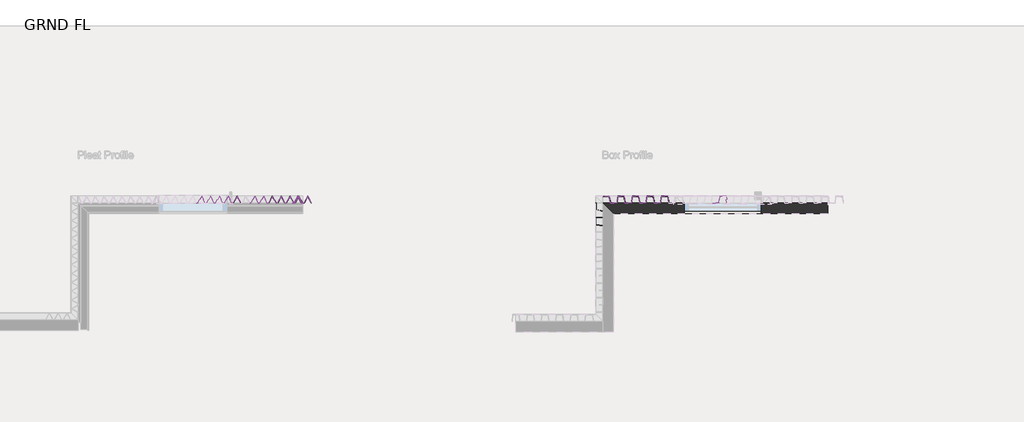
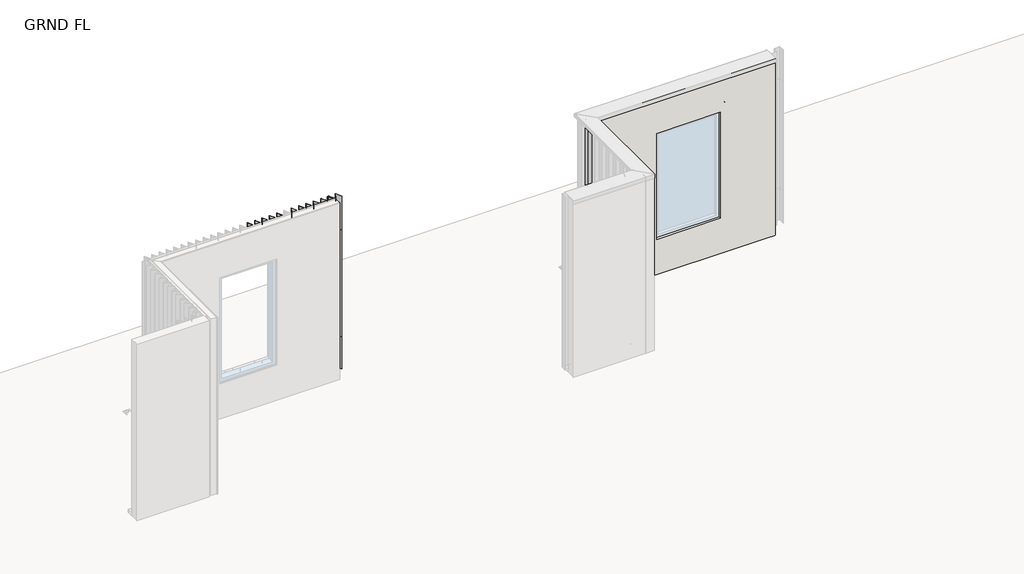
# One storey, part 4 of 13: 47 members, 1 wall.
"""IFC4 building model written with IfcOpenShell, lengths in millimetres."""

from ifc_helpers import new_model, si_unit, frame, origin, place, context, project, spatial, polyline, ellipse_curve, transform, mapped, element, save
from ifc_brep_helpers import plane_surface, cylinder_surface, revolved_surface, advanced_brep
from components import rectangular_mullion_6d4f5b42, rectangular_mullion_9c0c3c6b, rectangular_mullion_2d550053, rectangular_mullion_3ec16531, rectangular_mullion_c30dfc19, rectangular_mullion_fe7e4276, rectangular_mullion_7e84aa45, rectangular_mullion_6c8a53db, rectangular_mullion_6cd9f263, rectangular_mullion_04fd0460, rectangular_mullion_dd187791, rectangular_mullion_65e78ce3, rectangular_mullion_1e0c4966, rectangular_mullion_1727c332

model = new_model("IFC4")

# Units and contexts
model_context = context("Model", 3, world=origin())
ifc_project = project(units=[si_unit("LENGTHUNIT", "METRE", prefix="MILLI")], contexts=[model_context])

# Site, building, storey
site = spatial("IfcSite", under=ifc_project)
building = spatial("IfcBuilding", under=site)
storey = spatial("IfcBuildingStorey", under=building, Name="GRND FL", Elevation=35277.5920148)

# Members
placement = place(None, origin())
rectangular_mullion_shape = rectangular_mullion_6d4f5b42(model_context)
element("IfcMember", 1, ObjectType="Rectangular Mullion : CD_NINELINE_Pleat Start Intermediate", at=placement, inside=storey, context=model_context, shape_type="MappedRepresentation", body=[
    mapped(rectangular_mullion_shape, transform((57017.9220151, -3745.6146039, 35330.5920148), x_axis=(1.0, 0.0, 0.0), y_axis=(0.0, -1.0, 0.0), z_axis=(0.0, 0.0, -1.0))),
])
element("IfcMember", 2, ObjectType="Rectangular Mullion : CD_NINELINE_Pleat Start Intermediate", at=placement, inside=storey, context=model_context, shape_type="MappedRepresentation", body=[
    mapped(rectangular_mullion_shape, transform((57135.9220151, -3745.6146039, 35330.5920148), x_axis=(1.0, 0.0, 0.0), y_axis=(0.0, -1.0, 0.0), z_axis=(0.0, 0.0, -1.0))),
])
element("IfcMember", 3, ObjectType="Rectangular Mullion : CD_NINELINE_Pleat Start Intermediate", at=placement, inside=storey, context=model_context, shape_type="MappedRepresentation", body=[
    mapped(rectangular_mullion_shape, transform((57253.9220151, -3745.6146039, 35330.5920148), x_axis=(1.0, 0.0, 0.0), y_axis=(0.0, -1.0, 0.0), z_axis=(0.0, 0.0, -1.0))),
])
element("IfcMember", 4, ObjectType="Rectangular Mullion : CD_NINELINE_Pleat Start Intermediate", at=placement, inside=storey, context=model_context, shape_type="MappedRepresentation", body=[
    mapped(rectangular_mullion_shape, transform((57371.9220151, -3745.6146039, 35330.5920148), x_axis=(1.0, 0.0, 0.0), y_axis=(0.0, -1.0, 0.0), z_axis=(0.0, 0.0, -1.0))),
])
element("IfcMember", 5, ObjectType="Rectangular Mullion : CD_NINELINE_Pleat Start Intermediate", at=placement, inside=storey, context=model_context, shape_type="MappedRepresentation", body=[
    mapped(rectangular_mullion_shape, transform((57489.9220151, -3745.6146039, 35330.5920148), x_axis=(1.0, 0.0, 0.0), y_axis=(0.0, -1.0, 0.0), z_axis=(0.0, 0.0, -1.0))),
])
rectangular_mullion_2_shape = rectangular_mullion_9c0c3c6b(model_context)
element("IfcMember", 6, ObjectType="Rectangular Mullion : CD_NINELINE_Pleat End", at=placement, inside=storey, context=model_context, shape_type="MappedRepresentation", body=[
    mapped(rectangular_mullion_2_shape, transform((57493.7764071, -3745.6146039, 35330.5920148), x_axis=(1.0, 0.0, 0.0), y_axis=(0.0, -1.0, 0.0), z_axis=(0.0, 0.0, -1.0))),
])
rectangular_mullion_3_shape = rectangular_mullion_2d550053(model_context)
element("IfcMember", 7, ObjectType="Rectangular Mullion : CD_NINELINE_Box Intermediate", at=placement, inside=storey, context=model_context, shape_type="MappedRepresentation", body=[
    mapped(rectangular_mullion_3_shape, transform((61597.961255, -3745.6146039, 35330.5920148), x_axis=(1.0, 0.0, 0.0), y_axis=(0.0, -1.0, 0.0), z_axis=(0.0, 0.0, -1.0))),
])
element("IfcMember", 8, ObjectType="Rectangular Mullion : CD_NINELINE_Box Intermediate", at=placement, inside=storey, context=model_context, shape_type="MappedRepresentation", body=[
    mapped(rectangular_mullion_3_shape, transform((61791.961255, -3745.6146039, 35330.5920148), x_axis=(1.0, 0.0, 0.0), y_axis=(0.0, -1.0, 0.0), z_axis=(0.0, 0.0, -1.0))),
])
element("IfcMember", 9, ObjectType="Rectangular Mullion : CD_NINELINE_Box Intermediate", at=placement, inside=storey, context=model_context, shape_type="MappedRepresentation", body=[
    mapped(rectangular_mullion_3_shape, transform((61985.961255, -3745.6146039, 35330.5920148), x_axis=(1.0, 0.0, 0.0), y_axis=(0.0, -1.0, 0.0), z_axis=(0.0, 0.0, -1.0))),
])
element("IfcMember", 10, ObjectType="Rectangular Mullion : CD_NINELINE_Box Intermediate", at=placement, inside=storey, context=model_context, shape_type="MappedRepresentation", body=[
    mapped(rectangular_mullion_3_shape, transform((62179.961255, -3745.6146039, 35330.5920148), x_axis=(1.0, 0.0, 0.0), y_axis=(0.0, -1.0, 0.0), z_axis=(0.0, 0.0, -1.0))),
])
element("IfcMember", 11, ObjectType="Rectangular Mullion : CD_NINELINE_Box Intermediate", at=placement, inside=storey, context=model_context, shape_type="MappedRepresentation", body=[
    mapped(rectangular_mullion_3_shape, transform((62373.961255, -3745.6146039, 35330.5920148), x_axis=(1.0, 0.0, 0.0), y_axis=(0.0, -1.0, 0.0), z_axis=(0.0, 0.0, -1.0))),
])
element("IfcMember", 12, ObjectType="Rectangular Mullion : CD_NINELINE_Box Intermediate", at=placement, inside=storey, context=model_context, shape_type="MappedRepresentation", body=[
    mapped(rectangular_mullion_3_shape, transform((62567.961255, -3745.6146039, 35330.5920148), x_axis=(1.0, 0.0, 0.0), y_axis=(0.0, -1.0, 0.0), z_axis=(0.0, 0.0, -1.0))),
])
element("IfcMember", 13, ObjectType="Rectangular Mullion : CD_NINELINE_Box Intermediate", at=placement, inside=storey, context=model_context, shape_type="MappedRepresentation", body=[
    mapped(rectangular_mullion_3_shape, transform((62761.961255, -3745.6146039, 35330.5920148), x_axis=(1.0, 0.0, 0.0), y_axis=(0.0, -1.0, 0.0), z_axis=(0.0, 0.0, -1.0))),
])
rectangular_mullion_4_shape = rectangular_mullion_3ec16531(model_context)
element("IfcMember", 14, ObjectType="Rectangular Mullion : CD_NINELINE_Box Intermediate", at=placement, inside=storey, context=model_context, shape_type="MappedRepresentation", body=[
    mapped(rectangular_mullion_4_shape, transform((61597.961255, -3745.6146039, 37732.5920148), x_axis=(1.0, 0.0, 0.0), y_axis=(0.0, -1.0, 0.0), z_axis=(0.0, 0.0, -1.0))),
])
element("IfcMember", 15, ObjectType="Rectangular Mullion : CD_NINELINE_Box Intermediate", at=placement, inside=storey, context=model_context, shape_type="MappedRepresentation", body=[
    mapped(rectangular_mullion_4_shape, transform((61791.961255, -3745.6146039, 37732.5920148), x_axis=(1.0, 0.0, 0.0), y_axis=(0.0, -1.0, 0.0), z_axis=(0.0, 0.0, -1.0))),
])
element("IfcMember", 16, ObjectType="Rectangular Mullion : CD_NINELINE_Box Intermediate", at=placement, inside=storey, context=model_context, shape_type="MappedRepresentation", body=[
    mapped(rectangular_mullion_4_shape, transform((61985.961255, -3745.6146039, 37732.5920148), x_axis=(1.0, 0.0, 0.0), y_axis=(0.0, -1.0, 0.0), z_axis=(0.0, 0.0, -1.0))),
])
element("IfcMember", 17, ObjectType="Rectangular Mullion : CD_NINELINE_Box Intermediate", at=placement, inside=storey, context=model_context, shape_type="MappedRepresentation", body=[
    mapped(rectangular_mullion_4_shape, transform((62179.961255, -3745.6146039, 37732.5920148), x_axis=(1.0, 0.0, 0.0), y_axis=(0.0, -1.0, 0.0), z_axis=(0.0, 0.0, -1.0))),
])
rectangular_mullion_5_shape = rectangular_mullion_c30dfc19(model_context)
element("IfcMember", 18, ObjectType="Rectangular Mullion : CD_NINELINE_Box Intermediate", at=placement, inside=storey, context=model_context, shape_type="MappedRepresentation", body=[
    mapped(rectangular_mullion_5_shape, transform((61597.961255, -3745.6146039, 35872.5920148), x_axis=(1.0, 0.0, 0.0), y_axis=(0.0, -1.0, 0.0), z_axis=(0.0, 0.0, -1.0))),
])
element("IfcMember", 19, ObjectType="Rectangular Mullion : CD_NINELINE_Box Intermediate", at=placement, inside=storey, context=model_context, shape_type="MappedRepresentation", body=[
    mapped(rectangular_mullion_5_shape, transform((61791.961255, -3745.6146039, 35872.5920148), x_axis=(1.0, 0.0, 0.0), y_axis=(0.0, -1.0, 0.0), z_axis=(0.0, 0.0, -1.0))),
])
element("IfcMember", 20, ObjectType="Rectangular Mullion : CD_NINELINE_Box Intermediate", at=placement, inside=storey, context=model_context, shape_type="MappedRepresentation", body=[
    mapped(rectangular_mullion_5_shape, transform((62179.961255, -3745.6146039, 35872.5920148), x_axis=(1.0, 0.0, 0.0), y_axis=(0.0, -1.0, 0.0), z_axis=(0.0, 0.0, -1.0))),
])
element("IfcMember", 21, ObjectType="Rectangular Mullion : CD_NINELINE_Box Intermediate", at=placement, inside=storey, context=model_context, shape_type="MappedRepresentation", body=[
    mapped(rectangular_mullion_5_shape, transform((61985.961255, -3745.6146039, 35872.5920148), x_axis=(1.0, 0.0, 0.0), y_axis=(0.0, -1.0, 0.0), z_axis=(0.0, 0.0, -1.0))),
])
element("IfcMember", 22, ObjectType="Rectangular Mullion : CD_NINELINE_Box Intermediate", at=placement, inside=storey, context=model_context, shape_type="MappedRepresentation", body=[
    mapped(rectangular_mullion_4_shape, transform((62955.961255, -3745.6146039, 37732.5920148), x_axis=(1.0, 0.0, 0.0), y_axis=(0.0, -1.0, 0.0), z_axis=(0.0, 0.0, -1.0))),
])
rectangular_mullion_6_shape = rectangular_mullion_fe7e4276(model_context)
element("IfcMember", 23, ObjectType="Rectangular Mullion : CD_NINELINE_Pleat Start Intermediate", at=placement, inside=storey, context=model_context, shape_type="MappedRepresentation", body=[
    mapped(rectangular_mullion_6_shape, transform((56073.9220151, -3745.6146039, 37690.5295148), x_axis=(1.0, 0.0, 0.0), y_axis=(0.0, -1.0, 0.0), z_axis=(0.0, 0.0, -1.0))),
])
element("IfcMember", 24, ObjectType="Rectangular Mullion : CD_NINELINE_Pleat Start Intermediate", at=placement, inside=storey, context=model_context, shape_type="MappedRepresentation", body=[
    mapped(rectangular_mullion_6_shape, transform((56191.9220151, -3745.6146039, 37690.5295148), x_axis=(1.0, 0.0, 0.0), y_axis=(0.0, -1.0, 0.0), z_axis=(0.0, 0.0, -1.0))),
])
element("IfcMember", 25, ObjectType="Rectangular Mullion : CD_NINELINE_Pleat Start Intermediate", at=placement, inside=storey, context=model_context, shape_type="MappedRepresentation", body=[
    mapped(rectangular_mullion_6_shape, transform((56309.9220151, -3745.6146039, 37690.5295148), x_axis=(1.0, 0.0, 0.0), y_axis=(0.0, -1.0, 0.0), z_axis=(0.0, 0.0, -1.0))),
])
element("IfcMember", 26, ObjectType="Rectangular Mullion : CD_NINELINE_Pleat Start Intermediate", at=placement, inside=storey, context=model_context, shape_type="MappedRepresentation", body=[
    mapped(rectangular_mullion_6_shape, transform((56427.9220151, -3745.6146039, 37690.5295148), x_axis=(1.0, 0.0, 0.0), y_axis=(0.0, -1.0, 0.0), z_axis=(0.0, 0.0, -1.0))),
])
rectangular_mullion_7_shape = rectangular_mullion_7e84aa45(model_context)
element("IfcMember", 27, ObjectType="Rectangular Mullion : CD_NINELINE_Pleat Start Intermediate", at=placement, inside=storey, context=model_context, shape_type="MappedRepresentation", body=[
    mapped(rectangular_mullion_7_shape, transform((57017.9220151, -3745.6146039, 35877.5920148), x_axis=(1.0, 0.0, 0.0), y_axis=(0.0, -1.0, 0.0), z_axis=(0.0, 0.0, -1.0))),
])
element("IfcMember", 28, ObjectType="Rectangular Mullion : CD_NINELINE_Pleat Start Intermediate", at=placement, inside=storey, context=model_context, shape_type="MappedRepresentation", body=[
    mapped(rectangular_mullion_7_shape, transform((57135.9220151, -3745.6146039, 35877.5920148), x_axis=(1.0, 0.0, 0.0), y_axis=(0.0, -1.0, 0.0), z_axis=(0.0, 0.0, -1.0))),
])
element("IfcMember", 29, ObjectType="Rectangular Mullion : CD_NINELINE_Pleat Start Intermediate", at=placement, inside=storey, context=model_context, shape_type="MappedRepresentation", body=[
    mapped(rectangular_mullion_7_shape, transform((57253.9220151, -3745.6146039, 35877.5920148), x_axis=(1.0, 0.0, 0.0), y_axis=(0.0, -1.0, 0.0), z_axis=(0.0, 0.0, -1.0))),
])
element("IfcMember", 30, ObjectType="Rectangular Mullion : CD_NINELINE_Pleat Start Intermediate", at=placement, inside=storey, context=model_context, shape_type="MappedRepresentation", body=[
    mapped(rectangular_mullion_7_shape, transform((57371.9220151, -3745.6146039, 35877.5920148), x_axis=(1.0, 0.0, 0.0), y_axis=(0.0, -1.0, 0.0), z_axis=(0.0, 0.0, -1.0))),
])
element("IfcMember", 31, ObjectType="Rectangular Mullion : CD_NINELINE_Pleat Start Intermediate", at=placement, inside=storey, context=model_context, shape_type="MappedRepresentation", body=[
    mapped(rectangular_mullion_7_shape, transform((56545.9220151, -3745.6146039, 35877.5920148), x_axis=(1.0, 0.0, 0.0), y_axis=(0.0, -1.0, 0.0), z_axis=(0.0, 0.0, -1.0))),
])
element("IfcMember", 32, ObjectType="Rectangular Mullion : CD_NINELINE_Pleat Start Intermediate", at=placement, inside=storey, context=model_context, shape_type="MappedRepresentation", body=[
    mapped(rectangular_mullion_7_shape, transform((57489.9220151, -3745.6146039, 35877.5920148), x_axis=(1.0, 0.0, 0.0), y_axis=(0.0, -1.0, 0.0), z_axis=(0.0, 0.0, -1.0))),
])
element("IfcMember", 33, ObjectType="Rectangular Mullion : CD_NINELINE_Pleat Start Intermediate", at=placement, inside=storey, context=model_context, shape_type="MappedRepresentation", body=[
    mapped(rectangular_mullion_6_shape, transform((56781.9220151, -3745.6146039, 37690.5295148), x_axis=(1.0, 0.0, 0.0), y_axis=(0.0, -1.0, 0.0), z_axis=(0.0, 0.0, -1.0))),
])
element("IfcMember", 34, ObjectType="Rectangular Mullion : CD_NINELINE_Pleat Start Intermediate", at=placement, inside=storey, context=model_context, shape_type="MappedRepresentation", body=[
    mapped(rectangular_mullion_6_shape, transform((56899.9220151, -3745.6146039, 37690.5295148), x_axis=(1.0, 0.0, 0.0), y_axis=(0.0, -1.0, 0.0), z_axis=(0.0, 0.0, -1.0))),
])
element("IfcMember", 35, ObjectType="Rectangular Mullion : CD_NINELINE_Pleat Start Intermediate", at=placement, inside=storey, context=model_context, shape_type="MappedRepresentation", body=[
    mapped(rectangular_mullion_6_shape, transform((57017.9220151, -3745.6146039, 37690.5295148), x_axis=(1.0, 0.0, 0.0), y_axis=(0.0, -1.0, 0.0), z_axis=(0.0, 0.0, -1.0))),
])
element("IfcMember", 36, ObjectType="Rectangular Mullion : CD_NINELINE_Pleat Start Intermediate", at=placement, inside=storey, context=model_context, shape_type="MappedRepresentation", body=[
    mapped(rectangular_mullion_6_shape, transform((57135.9220151, -3745.6146039, 37690.5295148), x_axis=(1.0, 0.0, 0.0), y_axis=(0.0, -1.0, 0.0), z_axis=(0.0, 0.0, -1.0))),
])
element("IfcMember", 37, ObjectType="Rectangular Mullion : CD_NINELINE_Pleat Start Intermediate", at=placement, inside=storey, context=model_context, shape_type="MappedRepresentation", body=[
    mapped(rectangular_mullion_6_shape, transform((57253.9220151, -3745.6146039, 37690.5295148), x_axis=(1.0, 0.0, 0.0), y_axis=(0.0, -1.0, 0.0), z_axis=(0.0, 0.0, -1.0))),
])
element("IfcMember", 38, ObjectType="Rectangular Mullion : CD_NINELINE_Pleat Start Intermediate", at=placement, inside=storey, context=model_context, shape_type="MappedRepresentation", body=[
    mapped(rectangular_mullion_6_shape, transform((57371.9220151, -3745.6146039, 37690.5295148), x_axis=(1.0, 0.0, 0.0), y_axis=(0.0, -1.0, 0.0), z_axis=(0.0, 0.0, -1.0))),
])
element("IfcMember", 39, ObjectType="Rectangular Mullion : CD_NINELINE_Pleat Start Intermediate", at=placement, inside=storey, context=model_context, shape_type="MappedRepresentation", body=[
    mapped(rectangular_mullion_6_shape, transform((56545.9220151, -3745.6146039, 37690.5295148), x_axis=(1.0, 0.0, 0.0), y_axis=(0.0, -1.0, 0.0), z_axis=(0.0, 0.0, -1.0))),
])
element("IfcMember", 40, ObjectType="Rectangular Mullion : CD_NINELINE_Pleat Start Intermediate", at=placement, inside=storey, context=model_context, shape_type="MappedRepresentation", body=[
    mapped(rectangular_mullion_6_shape, transform((57489.9220151, -3745.6146039, 37690.5295148), x_axis=(1.0, 0.0, 0.0), y_axis=(0.0, -1.0, 0.0), z_axis=(0.0, 0.0, -1.0))),
])
rectangular_mullion_8_shape = rectangular_mullion_6c8a53db(model_context)
element("IfcMember", 41, ObjectType="Rectangular Mullion : CD_NINELINE_Pleat End", at=placement, inside=storey, context=model_context, shape_type="MappedRepresentation", body=[
    mapped(rectangular_mullion_8_shape, transform((57493.7764071, -3745.6146039, 35877.5920148), x_axis=(1.0, 0.0, 0.0), y_axis=(0.0, -1.0, 0.0), z_axis=(0.0, 0.0, -1.0))),
])
rectangular_mullion_9_shape = rectangular_mullion_6cd9f263(model_context)
element("IfcMember", 42, ObjectType="Rectangular Mullion : CD_NINELINE_Pleat End", at=placement, inside=storey, context=model_context, shape_type="MappedRepresentation", body=[
    mapped(rectangular_mullion_9_shape, transform((57493.7764071, -3745.6146039, 37690.5295148), x_axis=(1.0, 0.0, 0.0), y_axis=(0.0, -1.0, 0.0), z_axis=(0.0, 0.0, -1.0))),
])
rectangular_mullion_10_shape = rectangular_mullion_04fd0460(model_context)
element("IfcMember", 43, ObjectType="Rectangular Mullion : CD_NINELINE_Box Start", at=placement, inside=storey, context=model_context, shape_type="MappedRepresentation", body=[
    mapped(rectangular_mullion_10_shape, transform((61495.5859473, -3745.6146039, 35872.5920148), x_axis=(-1.0, 0.0, 0.0), y_axis=(0.0, -1.0, 0.0), z_axis=(0.0, 0.0, 1.0))),
])
rectangular_mullion_11_shape = rectangular_mullion_dd187791(model_context)
element("IfcMember", 44, ObjectType="Rectangular Mullion : CD_NINELINE_Box Start", at=placement, inside=storey, context=model_context, shape_type="MappedRepresentation", body=[
    mapped(rectangular_mullion_11_shape, transform((61495.5859473, -3745.6146039, 38272.5920148), x_axis=(-1.0, 0.0, 0.0), y_axis=(0.0, -1.0, 0.0), z_axis=(0.0, 0.0, 1.0))),
])
rectangular_mullion_12_shape = rectangular_mullion_65e78ce3(model_context)
element("IfcMember", 45, ObjectType="Rectangular Mullion : CD_NINELINE_Box Start", at=placement, inside=storey, context=model_context, shape_type="MappedRepresentation", body=[
    mapped(rectangular_mullion_12_shape, transform((61495.5859473, -3745.6146039, 37732.5920148), x_axis=(-1.0, 0.0, 0.0), y_axis=(0.0, -1.0, 0.0), z_axis=(0.0, 0.0, 1.0))),
])
rectangular_mullion_13_shape = rectangular_mullion_1e0c4966(model_context)
element("IfcMember", 46, ObjectType="Rectangular Mullion : CD_NINELINE_Box Intermediate", at=placement, inside=storey, context=model_context, shape_type="MappedRepresentation", body=[
    mapped(rectangular_mullion_13_shape, transform((61493.6836337, -3849.9811178, 35330.5920148), x_axis=(0.0, -1.0, 0.0), y_axis=(-1.0, 0.0, 0.0), z_axis=(0.0, 0.0, -1.0))),
])
rectangular_mullion_14_shape = rectangular_mullion_1727c332(model_context)
element("IfcMember", 47, ObjectType="Rectangular Mullion : CD_NINELINE_Box Start", at=placement, inside=storey, context=model_context, shape_type="MappedRepresentation", body=[
    mapped(rectangular_mullion_14_shape, transform((61493.6836337, -3747.5608687, 38272.5920148), x_axis=(0.0, 1.0, 0.0), y_axis=(-1.0, 0.0, 0.0), z_axis=(0.0, 0.0, 1.0))),
])

# Wall
element("IfcWall", 48, ObjectType="EXT METAL SF- Top Hat 35, Steel Frame 90, Plasterboard 13", at=placement, inside=storey, context=model_context, shape_type="AdvancedBrep", body=[
    advanced_brep(
    [(61635.6836337, -3887.6146039, 35277.5920148), (64493.6836337, -3887.6146039, 35277.5920148), (64493.6836337, -3887.6146039, 38277.5920148), (61635.6836337, -3887.6146039, 38277.5920148), (63609.9697375, -3887.6146039, 37677.5920148), (63609.9697375, -3887.6146039, 35877.5920148), (62584.9697375, -3887.6146039, 35877.5920148), (62584.9697375, -3887.6146039, 37677.5920148), (64493.6836337, -3745.6146039, 35277.5920148), (61493.6836337, -3745.6146039, 35277.5920148), (61493.6836337, -3745.6146039, 35328.1811873), (64493.6836337, -3745.6146039, 35328.1811873), (61493.6836337, -3745.6146039, 38277.5920148), (64493.6836337, -3745.6146039, 38277.5920148), (64493.6836337, -3745.6146039, 35407.5920148), (61493.6836337, -3745.6146039, 35407.5920148), (63610.9550891, -3745.6146039, 35879.395077), (63642.4595938, -3745.6146039, 35879.395077), (63734.8285385, -3745.6146039, 35878.5920529), (63736.8186585, -3745.6146039, 35876.592129), (63736.8186585, -3745.6146039, 35845.9418703), (63734.8035365, -3745.6146039, 35862.2912699), (63733.807199, -3745.6146039, 35862.1694005), (63737.8224783, -3745.6146039, 35829.5920148), (63737.8224783, -3745.6146039, 35876.592129), (63734.8372984, -3745.6146039, 35879.5920148), (63642.4595938, -3745.6146039, 35880.3951151), (63610.9550891, -3745.6146039, 35880.3951151), (63610.9550891, -3745.6146039, 37677.5920148), (63743.8199604, -3745.6146039, 37677.5920148), (63746.8314199, -3745.6146039, 37680.5920148), (63746.8314199, -3745.6146039, 37722.5924717), (63743.8725176, -3745.6146039, 37725.5920148), (63650.4647155, -3745.6146039, 37727.2162497), (62539.1300402, -3745.6146039, 37727.2162497), (62445.7222381, -3745.6146039, 37725.5920148), (62442.7633358, -3745.6146039, 37722.5924717), (62442.7633358, -3745.6146039, 37680.5920148), (62445.7747953, -3745.6146039, 37677.5920148), (62583.9782825, -3745.6146039, 37677.5920148), (62583.9782825, -3745.6146039, 35880.3951151), (62551.0895636, -3745.6146039, 35880.3951151), (62458.711859, -3745.6146039, 35879.5920148), (62455.7266791, -3745.6146039, 35876.592129), (62455.7266791, -3745.6146039, 35829.5920148), (62459.7419584, -3745.6146039, 35862.1694005), (62458.7456209, -3745.6146039, 35862.2912699), (62456.7304989, -3745.6146039, 35845.9418703), (62456.7304989, -3745.6146039, 35876.592129), (62458.7206188, -3745.6146039, 35878.5920529), (62551.0895636, -3745.6146039, 35879.395077), (62583.9782825, -3745.6146039, 35879.395077), (62583.9782825, -3745.6146039, 35877.5920148), (63610.9550891, -3745.6146039, 35877.5920148), (62539.1300402, -3745.6146039, 37726.2160974), (63650.4647155, -3745.6146039, 37726.2160974), (63743.8549985, -3745.6146039, 37724.5921671), (63745.8276, -3745.6146039, 37722.5924717), (63745.8276, -3745.6146039, 37680.5920148), (63743.8199604, -3745.6146039, 37678.5920148), (62445.7747953, -3745.6146039, 37678.5920148), (62443.7671556, -3745.6146039, 37680.5920148), (62443.7671556, -3745.6146039, 37722.5924717), (62445.7397571, -3745.6146039, 37724.5921671), (64493.6836337, -3746.6146039, 35328.1986423), (64493.6836337, -3746.6146039, 35407.5920148), (64493.6836337, -3882.8180808, 38277.5920148), (61630.8871105, -3882.8180808, 38277.5920148), (63609.9697375, -3770.6146039, 37677.5920148), (63609.9697375, -3770.6146039, 35877.5920148), (62584.9697375, -3770.6146039, 37677.5920148), (62583.9782825, -3770.6146039, 37677.5920148), (62583.9782825, -3762.6146039, 37677.5920148), (63610.9550891, -3762.6146039, 37677.5920148), (63610.9550891, -3770.6146039, 37677.5920148), (62584.9697375, -3770.6146039, 35877.5920148), (63610.9550891, -3770.6146039, 35877.5920148), (62583.9782825, -3770.6146039, 35877.5920148), (63610.9550891, -3759.6146039, 35880.5172912), (63610.9550891, -3759.6146039, 35886.5920148), (63610.9550891, -3760.6146039, 35886.5920148), (63610.9550891, -3760.6146039, 35879.52598), (62583.9782825, -3760.6146039, 35879.52598), (62583.9782825, -3760.6146039, 35886.5920148), (62583.9782825, -3759.6146039, 35886.5920148), (62583.9782825, -3759.6146039, 35880.5172912), (61494.6836337, -3746.6146039, 35407.5920148), (61494.6836337, -3746.6146039, 35328.1986423), (62564.8345312, -3760.6146039, 35879.52598), (63628.7146261, -3760.6146039, 35879.52598), (62564.8345312, -3760.6146039, 35886.5920148), (63628.7146261, -3760.6146039, 35886.5920148), (62563.9182001, -3759.6146039, 35886.5920148), (62563.9182001, -3759.6146039, 35880.5172912), (63629.6309573, -3759.6146039, 35886.5920148), (63629.6309573, -3759.6146039, 35880.5172912), (62454.3865417, -3760.9324443, 35829.5920148), (62454.3865417, -3760.9324443, 35876.592129), (62457.3717216, -3760.9324443, 35879.5920148), (62563.802904, -3760.9324443, 35880.5172912), (62563.802904, -3760.9324443, 35886.5920148), (62564.8067238, -3760.9324443, 35886.5920148), (62564.8067238, -3760.9324443, 35879.52598), (62457.3804815, -3760.9324443, 35878.5920529), (62455.3903615, -3760.9324443, 35876.592129), (62455.3903615, -3760.9324443, 35845.9418703), (62457.4054835, -3760.9324443, 35862.2912699), (62458.401821, -3760.9324443, 35862.1694005), (63629.7462534, -3760.9324443, 35886.5920148), (63628.7424336, -3760.9324443, 35886.5920148), (63629.7462534, -3760.9324443, 35880.5172912), (63736.1774358, -3760.9324443, 35879.5920148), (63739.1626157, -3760.9324443, 35876.592129), (63739.1626157, -3760.9324443, 35829.5920148), (63735.1473363, -3760.9324443, 35862.1694005), (63736.1436739, -3760.9324443, 35862.2912699), (63738.1587959, -3760.9324443, 35845.9418703), (63738.1587959, -3760.9324443, 35876.592129), (63736.1686759, -3760.9324443, 35878.5920529), (63628.7424336, -3760.9324443, 35879.52598), (62554.7076701, -3762.6146039, 37677.5920148), (62554.7076701, -3762.6146039, 37687.5920148), (63634.8870855, -3762.6146039, 37687.5920148), (63634.8870855, -3762.6146039, 37677.5920148), (62553.791339, -3761.6146039, 37687.5920148), (62553.791339, -3761.6146039, 37678.5920148), (63635.8034167, -3761.6146039, 37678.5920148), (63635.8034167, -3761.6146039, 37687.5920148), (62541.8790337, -3748.6146039, 37726.2684626), (63647.715722, -3748.6146039, 37726.2684626), (62541.8790337, -3748.6146039, 37825.5920148), (63647.715722, -3748.6146039, 37825.5920148), (62540.9627025, -3747.6146039, 37825.5920148), (62540.9627025, -3747.6146039, 37727.2511599), (63648.6320531, -3747.6146039, 37727.2511599), (63648.6320531, -3747.6146039, 37825.5920148), (62441.2482211, -3762.9324443, 37680.5920148), (62441.2482211, -3762.9324443, 37722.5924717), (62444.2071234, -3762.9324443, 37725.5920148), (62539.6225651, -3762.9324443, 37727.2511599), (62539.6225651, -3762.9324443, 37825.5920148), (62540.626385, -3762.9324443, 37825.5920148), (62540.626385, -3762.9324443, 37726.2684626), (62444.2246424, -3762.9324443, 37724.5921671), (62442.2520409, -3762.9324443, 37722.5924717), (62442.2520409, -3762.9324443, 37680.5920148), (62444.2596806, -3762.9324443, 37678.5920148), (62553.6760429, -3762.9324443, 37678.5920148), (62553.6760429, -3762.9324443, 37687.5920148), (62554.6798627, -3762.9324443, 37687.5920148), (62554.6798627, -3762.9324443, 37677.5920148), (62444.2596806, -3762.9324443, 37677.5920148), (63634.9148929, -3762.9324443, 37677.5920148), (63745.3350751, -3762.9324443, 37677.5920148), (63635.9187128, -3762.9324443, 37687.5920148), (63634.9148929, -3762.9324443, 37687.5920148), (63745.3350751, -3762.9324443, 37678.5920148), (63635.9187128, -3762.9324443, 37678.5920148), (63649.9721905, -3762.9324443, 37825.5920148), (63648.9683707, -3762.9324443, 37825.5920148), (63747.3427147, -3762.9324443, 37680.5920148), (63747.3427147, -3762.9324443, 37722.5924717), (63745.3701132, -3762.9324443, 37724.5921671), (63648.9683707, -3762.9324443, 37726.2684626), (63649.9721905, -3762.9324443, 37727.2511599), (63745.3876323, -3762.9324443, 37725.5920148), (63748.3465346, -3762.9324443, 37722.5924717), (63748.3465346, -3762.9324443, 37680.5920148)],
    [
        (0, 1),
        (1, 2),
        (2, 3),
        (3, 0),
        (4, 5),
        (5, 6),
        (6, 7),
        (7, 4),
        (8, 9),
        (9, 10),
        (10, 11),
        (11, 8),
        (12, 13),
        (13, 14),
        (14, 15),
        (15, 12),
        (16, 17),
        (17, 18),
        (18, 19, ellipse_curve(frame((63734.8110188, -3745.6146039, 35876.592129), z_axis=(0.0, 1.0, 0.0), x_axis=(1.0, 0.0, 0.0)), 2.0076397, 2.0)),
        (19, 20),
        (20, 21),
        (21, 22),
        (22, 23),
        (23, 24),
        (24, 25, ellipse_curve(frame((63734.8110188, -3745.6146039, 35876.592129), z_axis=(0.0, -1.0, 0.0), x_axis=(-1.0, 0.0, 0.0)), 3.0114595, 3.0)),
        (25, 26),
        (26, 27),
        (27, 28),
        (28, 29),
        (29, 30, ellipse_curve(frame((63743.8199604, -3745.6146039, 37680.5920148), z_axis=(0.0, -1.0, 0.0), x_axis=(-1.0, 0.0, 0.0)), 3.0114595, 3.0)),
        (30, 31),
        (31, 32, ellipse_curve(frame((63743.8199604, -3745.6146039, 37722.5924717), z_axis=(0.0, -1.0, 0.0), x_axis=(-1.0, 0.0, 0.0)), 3.0114595, 3.0)),
        (32, 33),
        (33, 34),
        (34, 35),
        (35, 36, ellipse_curve(frame((62445.7747953, -3745.6146039, 37722.5924717), z_axis=(0.0, -1.0, 0.0), x_axis=(-1.0, 0.0, 0.0)), 3.0114595, 3.0)),
        (36, 37),
        (37, 38, ellipse_curve(frame((62445.7747953, -3745.6146039, 37680.5920148), z_axis=(0.0, -1.0, 0.0), x_axis=(-1.0, 0.0, 0.0)), 3.0114595, 3.0)),
        (38, 39),
        (39, 40),
        (40, 41),
        (41, 42),
        (42, 43, ellipse_curve(frame((62458.7381386, -3745.6146039, 35876.592129), z_axis=(0.0, -1.0, 0.0), x_axis=(-1.0, 0.0, 0.0)), 3.0114595, 3.0)),
        (43, 44),
        (44, 45),
        (45, 46),
        (46, 47),
        (47, 48),
        (48, 49, ellipse_curve(frame((62458.7381386, -3745.6146039, 35876.592129), z_axis=(0.0, 1.0, 0.0), x_axis=(1.0, 0.0, 0.0)), 2.0076397, 2.0)),
        (49, 50),
        (50, 51),
        (51, 52),
        (52, 53),
        (53, 16),
        (54, 55),
        (55, 56),
        (56, 57, ellipse_curve(frame((63743.8199604, -3745.6146039, 37722.5924717), z_axis=(0.0, 1.0, 0.0), x_axis=(1.0, 0.0, 0.0)), 2.0076397, 2.0)),
        (57, 58),
        (58, 59, ellipse_curve(frame((63743.8199604, -3745.6146039, 37680.5920148), z_axis=(0.0, 1.0, 0.0), x_axis=(1.0, 0.0, 0.0)), 2.0076397, 2.0)),
        (59, 60),
        (60, 61, ellipse_curve(frame((62445.7747953, -3745.6146039, 37680.5920148), z_axis=(0.0, 1.0, 0.0), x_axis=(1.0, 0.0, 0.0)), 2.0076397, 2.0)),
        (61, 62),
        (62, 63, ellipse_curve(frame((62445.7747953, -3745.6146039, 37722.5924717), z_axis=(0.0, 1.0, 0.0), x_axis=(1.0, 0.0, 0.0)), 2.0076397, 2.0)),
        (63, 54),
        (0, 9),
        (8, 1),
        (11, 64),
        (64, 65),
        (65, 14),
        (13, 66),
        (66, 2),
        (12, 67),
        (67, 3),
        (4, 68),
        (68, 69),
        (69, 5),
        (7, 70),
        (70, 71),
        (71, 72),
        (72, 73),
        (73, 74),
        (74, 68),
        (6, 75),
        (75, 70),
        (69, 76),
        (76, 53),
        (52, 77),
        (77, 75),
        (74, 76),
        (73, 28),
        (27, 78),
        (78, 79),
        (79, 80),
        (80, 81),
        (81, 16),
        (77, 71),
        (51, 82),
        (82, 83),
        (83, 84),
        (84, 85),
        (85, 40),
        (39, 72),
        (15, 86),
        (86, 87),
        (87, 10),
        (50, 88),
        (88, 82),
        (81, 89),
        (89, 17),
        (88, 90),
        (90, 83),
        (80, 91),
        (91, 89),
        (92, 93),
        (93, 85),
        (84, 92),
        (94, 79),
        (78, 95),
        (95, 94),
        (93, 41),
        (26, 95),
        (96, 97),
        (97, 98, ellipse_curve(frame((62457.3980012, -3760.9324443, 35876.592129), z_axis=(0.0, 1.0, 0.0), x_axis=(-1.0, 0.0, 0.0)), 3.0114595, 3.0)),
        (98, 99),
        (99, 100),
        (100, 101),
        (101, 102),
        (102, 103),
        (103, 104, ellipse_curve(frame((62457.3980012, -3760.9324443, 35876.592129), z_axis=(0.0, -1.0, 0.0), x_axis=(1.0, 0.0, 0.0)), 2.0076397, 2.0)),
        (104, 105),
        (105, 106),
        (106, 107),
        (107, 96),
        (96, 44),
        (43, 97),
        (107, 45),
        (106, 46),
        (105, 47),
        (104, 48),
        (103, 49),
        (102, 88),
        (101, 90),
        (94, 108),
        (108, 109),
        (109, 91),
        (100, 92),
        (99, 93),
        (98, 42),
        (108, 110),
        (110, 111),
        (111, 112, ellipse_curve(frame((63736.1511562, -3760.9324443, 35876.592129), z_axis=(0.0, 1.0, 0.0), x_axis=(-1.0, 0.0, 0.0)), 3.0114595, 3.0)),
        (112, 113),
        (113, 114),
        (114, 115),
        (115, 116),
        (116, 117),
        (117, 118, ellipse_curve(frame((63736.1511562, -3760.9324443, 35876.592129), z_axis=(0.0, -1.0, 0.0), x_axis=(1.0, 0.0, 0.0)), 2.0076397, 2.0)),
        (118, 119),
        (119, 109),
        (112, 24),
        (23, 113),
        (22, 114),
        (21, 115),
        (20, 116),
        (19, 117),
        (18, 118),
        (89, 119),
        (95, 110),
        (25, 111),
        (120, 121),
        (121, 122),
        (122, 123),
        (123, 73),
        (72, 120),
        (124, 125),
        (125, 126),
        (126, 127),
        (127, 124),
        (128, 129),
        (129, 55),
        (54, 128),
        (128, 130),
        (130, 131),
        (131, 129),
        (132, 133),
        (133, 134),
        (134, 135),
        (135, 132),
        (133, 34),
        (33, 134),
        (136, 137),
        (137, 138, ellipse_curve(frame((62444.2596806, -3762.9324443, 37722.5924717), z_axis=(0.0, 1.0, 0.0), x_axis=(-1.0, 0.0, 0.0)), 3.0114595, 3.0)),
        (138, 139),
        (139, 140),
        (140, 141),
        (141, 142),
        (142, 143),
        (143, 144, ellipse_curve(frame((62444.2596806, -3762.9324443, 37722.5924717), z_axis=(0.0, -1.0, 0.0), x_axis=(1.0, 0.0, 0.0)), 2.0076397, 2.0)),
        (144, 145),
        (145, 146, ellipse_curve(frame((62444.2596806, -3762.9324443, 37680.5920148), z_axis=(0.0, -1.0, 0.0), x_axis=(1.0, 0.0, 0.0)), 2.0076397, 2.0)),
        (146, 147),
        (147, 148),
        (148, 149),
        (149, 150),
        (150, 151),
        (151, 136, ellipse_curve(frame((62444.2596806, -3762.9324443, 37680.5920148), z_axis=(0.0, 1.0, 0.0), x_axis=(-1.0, 0.0, 0.0)), 3.0114595, 3.0)),
        (136, 37),
        (36, 137),
        (151, 38),
        (150, 120),
        (123, 152),
        (152, 153),
        (153, 29),
        (149, 121),
        (148, 124),
        (127, 154),
        (154, 155),
        (155, 122),
        (147, 125),
        (146, 60),
        (59, 156),
        (156, 157),
        (157, 126),
        (145, 61),
        (144, 62),
        (143, 63),
        (142, 128),
        (141, 130),
        (140, 132),
        (135, 158),
        (158, 159),
        (159, 131),
        (139, 133),
        (138, 35),
        (152, 155),
        (154, 157),
        (156, 160, ellipse_curve(frame((63745.3350751, -3762.9324443, 37680.5920148), z_axis=(0.0, -1.0, 0.0), x_axis=(1.0, 0.0, 0.0)), 2.0076397, 2.0)),
        (160, 161),
        (161, 162, ellipse_curve(frame((63745.3350751, -3762.9324443, 37722.5924717), z_axis=(0.0, -1.0, 0.0), x_axis=(1.0, 0.0, 0.0)), 2.0076397, 2.0)),
        (162, 163),
        (163, 159),
        (158, 164),
        (164, 165),
        (165, 166, ellipse_curve(frame((63745.3350751, -3762.9324443, 37722.5924717), z_axis=(0.0, 1.0, 0.0), x_axis=(-1.0, 0.0, 0.0)), 3.0114595, 3.0)),
        (166, 167),
        (167, 153, ellipse_curve(frame((63745.3350751, -3762.9324443, 37680.5920148), z_axis=(0.0, 1.0, 0.0), x_axis=(-1.0, 0.0, 0.0)), 3.0114595, 3.0)),
        (166, 31),
        (30, 167),
        (58, 160),
        (57, 161),
        (56, 162),
        (129, 163),
        (134, 164),
        (32, 165),
        (65, 86),
        (87, 64),
    ],
    [
        plane_surface(frame((61493.6836337, -3887.6146039, 35277.5920148), z_axis=(0.0, -1.0, 0.0), x_axis=(1.0, 0.0, 0.0))),
        plane_surface(frame((61493.6836337, -3745.6146039, 35277.5920148), z_axis=(0.0, 1.0, 0.0), x_axis=(-1.0, 0.0, 0.0))),
        plane_surface(frame((61564.6836337, -3887.6146039, 35277.5920148), z_axis=(0.0, 0.0, -1.0), x_axis=(0.0, 1.0, 0.0))),
        plane_surface(frame((64493.6836337, -3887.6146039, 35277.5920148), z_axis=(1.0, 0.0, 0.0), x_axis=(0.0, 1.0, 0.0))),
        plane_surface(frame((64493.6836337, -3887.6146039, 38277.5920148), z_axis=(0.0, 0.0, 1.0), x_axis=(0.0, 1.0, 0.0))),
        plane_surface(frame((63609.9697375, -5269.6146039, 35877.5920148), z_axis=(-1.0, 0.0, 0.0), x_axis=(0.0, 1.0, 0.0))),
        plane_surface(frame((63609.9697375, -5269.6146039, 37677.5920148), z_axis=(0.0, 0.0, -1.0), x_axis=(0.0, 1.0, 0.0))),
        plane_surface(frame((62584.9697375, -5269.6146039, 37677.5920148), z_axis=(1.0, 0.0, 0.0), x_axis=(0.0, 1.0, 0.0))),
        plane_surface(frame((62584.9697375, -5269.6146039, 35877.5920148), z_axis=(0.0, 0.0, 1.0), x_axis=(0.0, 1.0, 0.0))),
        plane_surface(frame((63610.9550891, -3770.6146039, 35877.5920148), z_axis=(0.0, 1.0, 0.0), x_axis=(0.0, 0.0, 1.0))),
        plane_surface(frame((63610.9550891, -3650.6197736, 35877.5920148), z_axis=(-1.0, 0.0, 0.0), x_axis=(0.0, 0.0, 1.0))),
        plane_surface(frame((62584.9782825, -3770.6146039, 35877.5920148), z_axis=(0.0, 1.0, 0.0), x_axis=(0.0, 0.0, 1.0))),
        plane_surface(frame((62583.9782825, -3770.6146039, 35877.5920148), z_axis=(1.0, 0.0, 0.0), x_axis=(0.0, 0.0, 1.0))),
        plane_surface(frame((61493.6836337, -3745.6146039, 35277.5920148), z_axis=(-0.7071067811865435, -0.7071067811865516, 0.0), x_axis=(0.7071067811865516, -0.7071067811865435, 0.0))),
        plane_surface(frame((62466.7711028, -3653.5971508, 35878.5920529), z_axis=(0.0, 0.008726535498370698, 0.9999619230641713), x_axis=(1.0, 0.0, 0.0))),
        plane_surface(frame((62564.8345312, -3760.6146039, 35879.52598), z_axis=(0.0, 1.0, 0.0), x_axis=(1.0, 0.0, 0.0))),
        plane_surface(frame((62563.9182001, -3759.6146039, 35886.5920148), z_axis=(0.0, -1.0, 0.0), x_axis=(1.0, 0.0, 0.0))),
        plane_surface(frame((62563.9182001, -3759.6146039, 35880.5172912), z_axis=(0.0, -0.008726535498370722, -0.9999619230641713), x_axis=(1.0, 0.0, 0.0))),
        plane_surface(frame((61493.6836337, -3760.9324443, 35277.5920148), z_axis=(0.0, 1.0, 0.0), x_axis=(-1.0, 0.0, 0.0))),
        plane_surface(frame((62454.3865417, -3760.9324443, 35876.592129), z_axis=(0.9961946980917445, -0.08715574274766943, 0.0), x_axis=(0.08715574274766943, 0.9961946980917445, 0.0))),
        plane_surface(frame((62454.3865417, -3760.9324443, 35829.5920148), z_axis=(-0.9887692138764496, 0.08650609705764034, 0.12186934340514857), x_axis=(0.08715574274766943, 0.9961946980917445, 0.0))),
        plane_surface(frame((62458.401821, -3760.9324443, 35862.1694005), z_axis=(-0.12140559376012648, 0.010621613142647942, -0.9925461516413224), x_axis=(0.08715574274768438, 0.9961946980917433, 0.0))),
        plane_surface(frame((62457.4054835, -3760.9324443, 35862.2912699), z_axis=(0.9887692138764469, -0.08650609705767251, -0.12186934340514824), x_axis=(0.08715574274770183, 0.9961946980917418, 0.0))),
        plane_surface(frame((62455.3903615, -3760.9324443, 35845.9418703), z_axis=(-0.9961946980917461, 0.08715574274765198, 0.0), x_axis=(0.08715574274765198, 0.9961946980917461, 0.0))),
        cylinder_surface(frame((62458.099514, -3752.9141159, 35876.592129), z_axis=(0.08715574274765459, 0.9961946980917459, 0.0), x_axis=(-0.9961946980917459, 0.08715574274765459, 0.0)), 2.0),
        plane_surface(frame((62457.3804815, -3760.9324443, 35878.5920529), z_axis=(-0.008693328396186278, 0.0007605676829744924, 0.9999619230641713), x_axis=(0.08715574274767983, 0.9961946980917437, 0.0))),
        plane_surface(frame((62564.8067238, -3760.9324443, 35879.52598), z_axis=(-0.996194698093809, 0.08715574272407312, 0.0), x_axis=(0.08715574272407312, 0.996194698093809, 0.0))),
        plane_surface(frame((62564.8067238, -3760.9324443, 35886.5920148), z_axis=(0.0, 0.0, -1.0), x_axis=(0.08715574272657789, 0.9961946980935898, 0.0))),
        plane_surface(frame((62563.802904, -3760.9324443, 35886.5920148), z_axis=(0.9961946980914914, -0.08715574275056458, 0.0), x_axis=(0.08715574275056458, 0.9961946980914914, 0.0))),
        plane_surface(frame((62563.802904, -3760.9324443, 35880.5172912), z_axis=(0.008693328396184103, -0.0007605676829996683, -0.9999619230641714), x_axis=(0.08715574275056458, 0.9961946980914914, 0.0))),
        revolved_surface(polyline([(62454.38654165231, -3760.9324442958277, 35876.592129), (62455.77242987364, -3745.0916694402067, 35876.592129)]), (62458.099514, -3752.9141159, 35876.592129), (-0.08715574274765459, -0.9961946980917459, 0.0)),
        plane_surface(frame((63729.5110553, -3650.6146039, 35876.592129), z_axis=(-0.9961946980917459, -0.08715574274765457, 0.0), x_axis=(0.08715574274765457, -0.9961946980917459, 0.0))),
        plane_surface(frame((63729.5110553, -3650.6146039, 35829.5920148), z_axis=(0.988769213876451, 0.0865060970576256, 0.12186934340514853), x_axis=(0.08715574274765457, -0.9961946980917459, 0.0))),
        plane_surface(frame((63725.8457306, -3654.6146039, 35862.1694005), z_axis=(0.1214055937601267, 0.010621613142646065, -0.9925461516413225), x_axis=(0.08715574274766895, -0.9961946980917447, 0.0))),
        plane_surface(frame((63726.7552316, -3653.6220578, 35862.2912699), z_axis=(-0.9887692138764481, -0.08650609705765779, -0.12186934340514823), x_axis=(0.08715574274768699, -0.996194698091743, 0.0))),
        plane_surface(frame((63728.5947241, -3651.6146039, 35845.9418703), z_axis=(0.9961946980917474, 0.08715574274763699, 0.0), x_axis=(0.08715574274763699, -0.9961946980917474, 0.0))),
        cylinder_surface(frame((63734.109506, -3737.5962756, 35876.592129), z_axis=(0.08715574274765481, -0.9961946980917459, 0.0), x_axis=(0.9961946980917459, 0.08715574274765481, 0.0)), 2.0),
        plane_surface(frame((63726.7780546, -3653.5971508, 35878.5920529), z_axis=(0.008693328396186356, 0.0007605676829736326, 0.9999619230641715), x_axis=(0.08715574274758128, -0.9961946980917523, 0.0))),
        plane_surface(frame((63628.7146261, -3760.6146039, 35879.52598), z_axis=(0.9961946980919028, 0.08715574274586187, 0.0), x_axis=(0.08715574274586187, -0.9961946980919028, 0.0))),
        plane_surface(frame((63629.6309573, -3759.6146039, 35886.5920148), z_axis=(-0.9961946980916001, -0.08715574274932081, 0.0), x_axis=(0.08715574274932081, -0.9961946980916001, 0.0))),
        plane_surface(frame((63629.6309573, -3759.6146039, 35880.5172912), z_axis=(-0.008693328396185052, -0.0007605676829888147, -0.9999619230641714), x_axis=(0.08715574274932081, -0.9961946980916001, 0.0))),
        revolved_surface(polyline([(63737.77672750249, -3745.091669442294, 35876.592129), (63739.16261572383, -3760.9324442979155, 35876.592129)]), (63734.109506, -3737.5962756, 35876.592129), (-0.08715574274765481, 0.9961946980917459, 0.0)),
        plane_surface(frame((62554.7076701, -3762.6146039, 37677.5920148), z_axis=(0.0, 1.0, 0.0), x_axis=(1.0, 0.0, 0.0))),
        plane_surface(frame((62553.791339, -3761.6146039, 37687.5920148), z_axis=(0.0, -1.0, 0.0), x_axis=(1.0, 0.0, 0.0))),
        plane_surface(frame((62453.8792566, -3652.5796991, 37724.5921671), z_axis=(0.0, 0.01745240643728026, 0.9998476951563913), x_axis=(1.0, 0.0, 0.0))),
        plane_surface(frame((62541.8790337, -3748.6146039, 37726.2684626), z_axis=(0.0, 1.0, 0.0), x_axis=(1.0, 0.0, 0.0))),
        plane_surface(frame((62540.9627025, -3747.6146039, 37825.5920148), z_axis=(0.0, -1.0, 0.0), x_axis=(1.0, 0.0, 0.0))),
        plane_surface(frame((62540.9627025, -3747.6146039, 37727.2511599), z_axis=(0.0, -0.017452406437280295, -0.9998476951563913), x_axis=(1.0, 0.0, 0.0))),
        plane_surface(frame((61493.6836337, -3762.9324443, 35277.5920148), z_axis=(0.0, 1.0, 0.0), x_axis=(-1.0, 0.0, 0.0))),
        plane_surface(frame((62441.2482211, -3762.9324443, 37722.5924717), z_axis=(0.9961946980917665, -0.08715574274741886, 0.0), x_axis=(0.08715574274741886, 0.9961946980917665, 0.0))),
        revolved_surface(polyline([(62441.24822109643, -3762.932444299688, 37680.5920148), (62442.80908664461, -3745.0916694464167, 37680.5920148)]), (62444.9535683, -3755.0012717, 37680.5920148), (-0.08715574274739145, -0.9961946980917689, 0.0)),
        plane_surface(frame((62444.2596806, -3762.9324443, 37677.5920148), z_axis=(0.0, 0.0, 1.0000000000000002), x_axis=(0.08715574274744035, 0.9961946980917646, 0.0))),
        plane_surface(frame((62554.6798627, -3762.9324443, 37677.5920148), z_axis=(-0.9961946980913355, 0.08715574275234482, 0.0), x_axis=(0.08715574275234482, 0.9961946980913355, 0.0))),
        plane_surface(frame((62554.6798627, -3762.9324443, 37687.5920148), z_axis=(0.0, 0.0, -1.0), x_axis=(0.08715574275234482, 0.9961946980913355, 0.0))),
        plane_surface(frame((62553.6760429, -3762.9324443, 37687.5920148), z_axis=(0.9961946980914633, -0.0871557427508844, 0.0), x_axis=(0.0871557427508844, 0.9961946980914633, 0.0))),
        plane_surface(frame((62553.6760429, -3762.9324443, 37678.5920148), z_axis=(0.0, 0.0, -1.0), x_axis=(0.0871557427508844, 0.9961946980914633, 0.0))),
        cylinder_surface(frame((62444.9535683, -3755.0012717, 37680.5920148), z_axis=(0.08715574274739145, 0.9961946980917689, 0.0), x_axis=(-0.9961946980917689, 0.08715574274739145, 0.0)), 2.0),
        plane_surface(frame((62442.2520409, -3762.9324443, 37680.5920148), z_axis=(-0.9961946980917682, 0.08715574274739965, 0.0), x_axis=(0.08715574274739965, 0.9961946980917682, 0.0))),
        cylinder_surface(frame((62444.9535683, -3755.0012717, 37722.5924717), z_axis=(0.08715574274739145, 0.9961946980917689, 0.0), x_axis=(-0.9961946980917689, 0.08715574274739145, 0.0)), 2.0),
        plane_surface(frame((62444.2246424, -3762.9324443, 37724.5921671), z_axis=(-0.017385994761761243, 0.0015210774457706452, 0.9998476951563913), x_axis=(0.0871557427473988, 0.9961946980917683, 0.0))),
        plane_surface(frame((62540.626385, -3762.9324443, 37726.2684626), z_axis=(-0.9961946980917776, 0.08715574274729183, 0.0), x_axis=(0.08715574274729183, 0.9961946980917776, 0.0))),
        plane_surface(frame((62540.626385, -3762.9324443, 37825.5920148), z_axis=(0.0, 0.0, -1.0000000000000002), x_axis=(0.08715574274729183, 0.9961946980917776, 0.0))),
        plane_surface(frame((62539.6225651, -3762.9324443, 37825.5920148), z_axis=(0.9961946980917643, -0.08715574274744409, 0.0), x_axis=(0.08715574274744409, 0.9961946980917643, 0.0))),
        plane_surface(frame((62539.6225651, -3762.9324443, 37727.2511599), z_axis=(0.01738599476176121, -0.0015210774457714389, -0.9998476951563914), x_axis=(0.08715574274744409, 0.9961946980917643, 0.0))),
        revolved_surface(polyline([(62441.24822109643, -3762.932444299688, 37722.5924717), (62442.80908664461, -3745.0916694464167, 37722.5924717)]), (62444.9535683, -3755.0012717, 37722.5924717), (-0.08715574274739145, -0.9961946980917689, 0.0)),
        plane_surface(frame((63738.4325082, -3649.6146039, 37722.5924717), z_axis=(-0.9961946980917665, -0.08715574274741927, 0.0), x_axis=(0.08715574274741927, -0.9961946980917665, 0.0))),
        revolved_surface(polyline([(63746.78566899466, -3745.0916694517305, 37680.5920148), (63748.34653454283, -3762.9324443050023, 37680.5920148)]), (63742.9510953, -3735.6834313, 37680.5920148), (-0.0871557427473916, 0.996194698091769, 0.0)),
        plane_surface(frame((63634.8870855, -3762.6146039, 37677.5920148), z_axis=(0.9961946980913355, 0.08715574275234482, 0.0), x_axis=(0.08715574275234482, -0.9961946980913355, 0.0))),
        plane_surface(frame((63635.8034167, -3761.6146039, 37687.5920148), z_axis=(-0.9961946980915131, -0.08715574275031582, 0.0), x_axis=(0.08715574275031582, -0.9961946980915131, 0.0))),
        cylinder_surface(frame((63742.9510953, -3735.6834313, 37680.5920148), z_axis=(0.0871557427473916, -0.996194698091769, 0.0), x_axis=(0.996194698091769, 0.0871557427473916, 0.0)), 2.0),
        plane_surface(frame((63737.516177, -3650.6146039, 37680.5920148), z_axis=(0.9961946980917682, 0.08715574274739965, 0.0), x_axis=(0.08715574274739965, -0.9961946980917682, 0.0))),
        cylinder_surface(frame((63742.9510953, -3735.6834313, 37722.5924717), z_axis=(0.0871557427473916, -0.996194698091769, 0.0), x_axis=(0.996194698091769, 0.0871557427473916, 0.0)), 2.0),
        plane_surface(frame((63735.715499, -3652.5796991, 37724.5921671), z_axis=(0.017385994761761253, 0.0015210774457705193, 0.9998476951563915), x_axis=(0.08715574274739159, -0.996194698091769, 0.0))),
        plane_surface(frame((63647.715722, -3748.6146039, 37726.2684626), z_axis=(0.9961946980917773, 0.0871557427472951, 0.0), x_axis=(0.0871557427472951, -0.9961946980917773, 0.0))),
        plane_surface(frame((63648.6320531, -3747.6146039, 37825.5920148), z_axis=(-0.9961946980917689, -0.08715574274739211, 0.0), x_axis=(0.08715574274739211, -0.9961946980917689, 0.0))),
        plane_surface(frame((63648.6320531, -3747.6146039, 37727.2511599), z_axis=(-0.017385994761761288, -0.0015210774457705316, -0.9998476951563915), x_axis=(0.08715574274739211, -0.9961946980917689, 0.0))),
        revolved_surface(polyline([(63746.78566899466, -3745.0916694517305, 37722.5924717), (63748.34653454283, -3762.9324443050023, 37722.5924717)]), (63742.9510953, -3735.6834313, 37722.5924717), (-0.0871557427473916, 0.996194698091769, 0.0)),
        plane_surface(frame((61494.6836337, -5326.6302289, 35407.5920148), z_axis=(0.0, 0.0, -1.0), x_axis=(0.0, 1.0, 0.0))),
        plane_surface(frame((61402.6487288, -3654.5796991, 35326.5921671), z_axis=(0.0, 0.017452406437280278, 0.9998476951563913), x_axis=(1.0, 0.0, 0.0))),
        plane_surface(frame((61494.6836337, -3746.6146039, 35328.1986423), z_axis=(0.0, 1.0, 0.0), x_axis=(1.0, 0.0, 0.0))),
    ],
    [
        (0, [[1, 2, 3, 4], [5, 6, 7, 8]]),
        (1, [[9, 10, 11, 12]]),
        (1, [[13, 14, 15, 16], [17, 18, 19, 20, 21, 22, 23, 24, 25, 26, 27, 28, 29, 30, 31, 32, 33, 34, 35, 36, 37, 38, 39, 40, 41, 42, 43, 44, 45, 46, 47, 48, 49, 50, 51, 52, 53, 54]]),
        (1, [[55, 56, 57, 58, 59, 60, 61, 62, 63, 64]]),
        (2, [[-1, 65, -9, 66]]),
        (3, [[-2, -66, -12, 67, 68, 69, -14, 70, 71]]),
        (4, [[-3, -71, -70, -13, 72, 73]]),
        (5, [[-5, 74, 75, 76]]),
        (6, [[-8, 77, 78, 79, 80, 81, 82, -74]]),
        (7, [[-7, 83, 84, -77]]),
        (8, [[-6, -76, 85, 86, -53, 87, 88, -83]]),
        (9, [[-85, -75, -82, 89]]),
        (10, [[-86, -89, -81, 90, -28, 91, 92, 93, 94, 95, -54]]),
        (11, [[-88, 96, -78, -84]]),
        (12, [[-96, -87, -52, 97, 98, 99, 100, 101, -40, 102, -79]]),
        (13, [[-4, -73, -72, -16, 103, 104, 105, -10, -65]]),
        (14, [[106, 107, -97, -51]]),
        (14, [[108, 109, -17, -95]]),
        (15, [[110, 111, -98, -107]]),
        (15, [[-108, -94, 112, 113]]),
        (16, [[114, 115, -100, 116]]),
        (16, [[117, -92, 118, 119]]),
        (17, [[120, -41, -101, -115]]),
        (17, [[-118, -91, -27, 121]]),
        (18, [[122, 123, 124, 125, 126, 127, 128, 129, 130, 131, 132, 133]]),
        (19, [[-122, 134, -44, 135]]),
        (20, [[-133, 136, -45, -134]]),
        (21, [[-132, 137, -46, -136]]),
        (22, [[-131, 138, -47, -137]]),
        (23, [[-130, 139, -48, -138]]),
        (24, [[-129, 140, -49, -139]]),
        (25, [[-106, -50, -140, -128, 141]]),
        (26, [[-110, -141, -127, 142]]),
        (27, [[-112, -93, -117, 143, 144, 145]]),
        (27, [[-111, -142, -126, 146, -116, -99]]),
        (28, [[-114, -146, -125, 147]]),
        (29, [[-120, -147, -124, 148, -42]]),
        (30, [[-123, -135, -43, -148]]),
        (18, [[-144, 149, 150, 151, 152, 153, 154, 155, 156, 157, 158, 159]]),
        (31, [[-152, 160, -24, 161]]),
        (32, [[-153, -161, -23, 162]]),
        (33, [[-154, -162, -22, 163]]),
        (34, [[-155, -163, -21, 164]]),
        (35, [[-156, -164, -20, 165]]),
        (36, [[-157, -165, -19, 166]]),
        (37, [[-158, -166, -18, -109, 167]]),
        (38, [[-145, -159, -167, -113]]),
        (39, [[-143, -119, 168, -149]]),
        (40, [[-150, -168, -121, -26, 169]]),
        (41, [[-151, -169, -25, -160]]),
        (42, [[170, 171, 172, 173, -80, 174]]),
        (43, [[175, 176, 177, 178]]),
        (44, [[179, 180, -55, 181]]),
        (45, [[182, 183, 184, -179]]),
        (46, [[185, 186, 187, 188]]),
        (47, [[-186, 189, -34, 190]]),
        (48, [[191, 192, 193, 194, 195, 196, 197, 198, 199, 200, 201, 202, 203, 204, 205, 206]]),
        (49, [[-191, 207, -37, 208]]),
        (50, [[-206, 209, -38, -207]]),
        (51, [[-174, -102, -39, -209, -205, 210]]),
        (51, [[-29, -90, -173, 211, 212, 213]]),
        (52, [[-170, -210, -204, 214]]),
        (53, [[-171, -214, -203, 215, -178, 216, 217, 218]]),
        (54, [[-175, -215, -202, 219]]),
        (55, [[-176, -219, -201, 220, -60, 221, 222, 223]]),
        (56, [[-200, 224, -61, -220]]),
        (57, [[-199, 225, -62, -224]]),
        (58, [[-198, 226, -63, -225]]),
        (59, [[-181, -64, -226, -197, 227]]),
        (60, [[-182, -227, -196, 228]]),
        (61, [[-183, -228, -195, 229, -188, 230, 231, 232]]),
        (62, [[-185, -229, -194, 233]]),
        (63, [[-189, -233, -193, 234, -35]]),
        (64, [[-192, -208, -36, -234]]),
        (48, [[-212, 235, -217, 236, -222, 237, 238, 239, 240, 241, -231, 242, 243, 244, 245, 246]]),
        (65, [[-245, 247, -31, 248]]),
        (66, [[-246, -248, -30, -213]]),
        (67, [[-211, -172, -218, -235]]),
        (68, [[-216, -177, -223, -236]]),
        (69, [[-237, -221, -59, 249]]),
        (70, [[-238, -249, -58, 250]]),
        (71, [[-239, -250, -57, 251]]),
        (72, [[-240, -251, -56, -180, 252]]),
        (73, [[-232, -241, -252, -184]]),
        (74, [[-230, -187, 253, -242]]),
        (75, [[-243, -253, -190, -33, 254]]),
        (76, [[-244, -254, -32, -247]]),
        (77, [[255, -103, -15, -69]]),
        (78, [[256, -67, -11, -105]]),
        (79, [[-255, -68, -256, -104]]),
    ],
),
])

save(model, "model.ifc")
